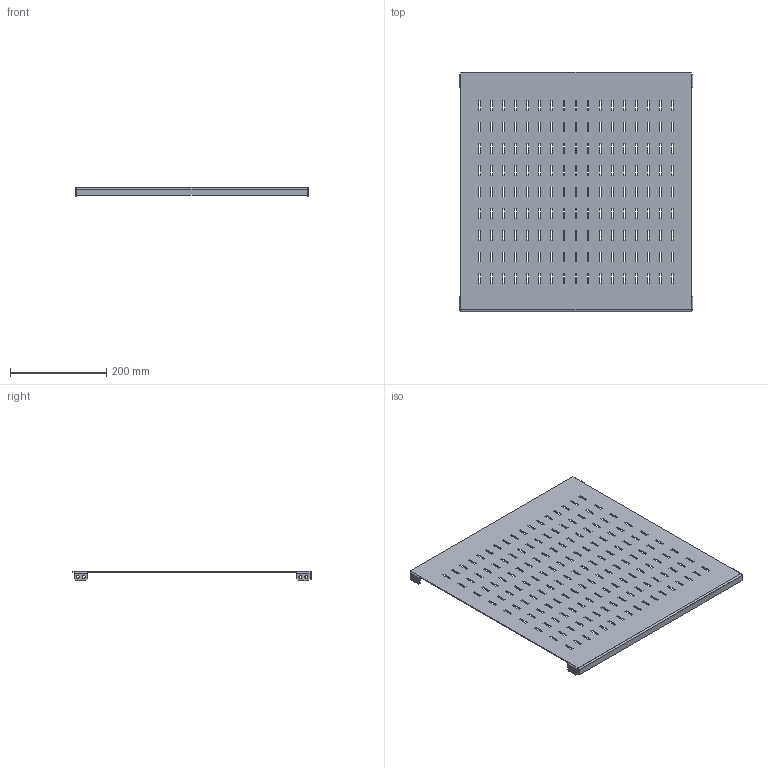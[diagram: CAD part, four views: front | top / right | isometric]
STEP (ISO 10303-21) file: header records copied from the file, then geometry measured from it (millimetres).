
FILE_DESCRIPTION(('STEP AP203'), '1');
FILE_NAME('Ïàíåëü áîêîâàÿ âîçäóøíîãî âûêëþ÷àòåëÿ Â600õÃ600 ìì OptiBox M (2 øò) 419092 ÊÝÀÇ', '', ('UNSPECIFIED'), ('UNSPECIFIED'), 'C3D Converter', 'C3D Toolkit', '');
FILE_SCHEMA(('CONFIG_CONTROL_DESIGN'));
Length unit declared in the file: millimetre
Bounding box: 485 x 497 x 19 mm (x, y, z)
Volume: 467302.4 mm3; surface area: 486538.5 mm2
Topology: 1 solids, 1 shells, 680 faces, 1994 edges, 1316 vertices
Faces by surface type: plane 662, cylinder 18
Full cylindrical faces by diameter (mm): 6.3 x8
Entity records: 22718 total; most frequent: CARTESIAN_POINT 3983, ORIENTED_EDGE 3972, DIRECTION 3384, EDGE_CURVE 1986, LINE 1950, VECTOR 1950, VERTEX_POINT 1316, EDGE_LOOP 1010
